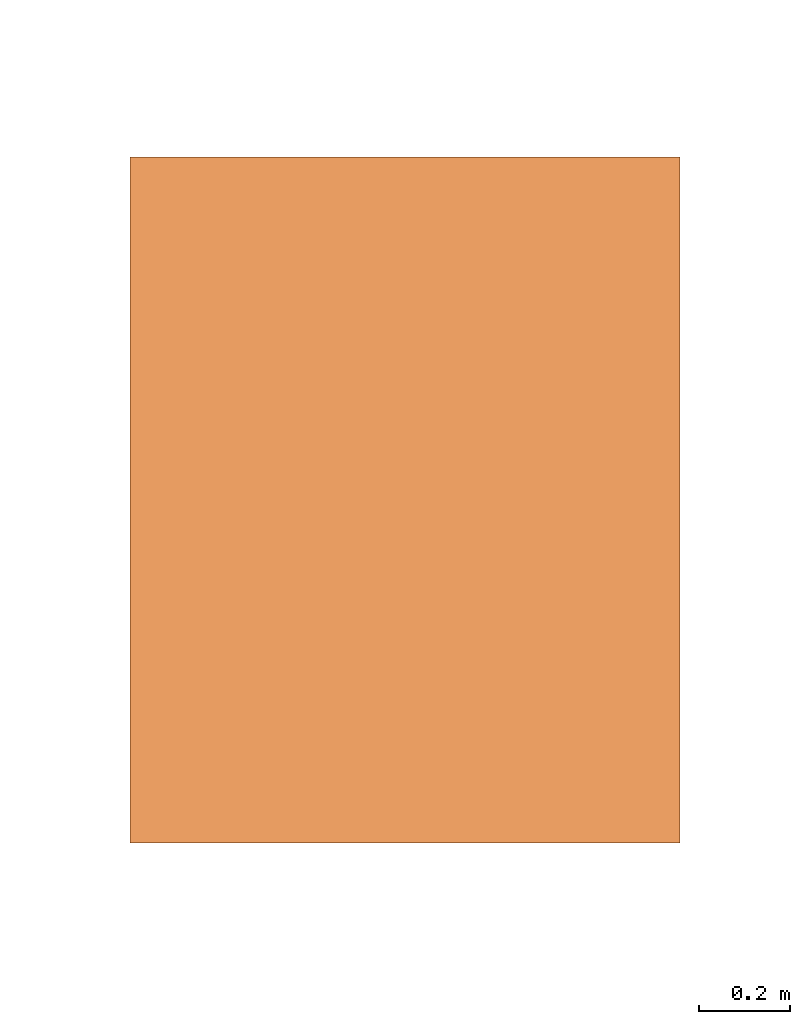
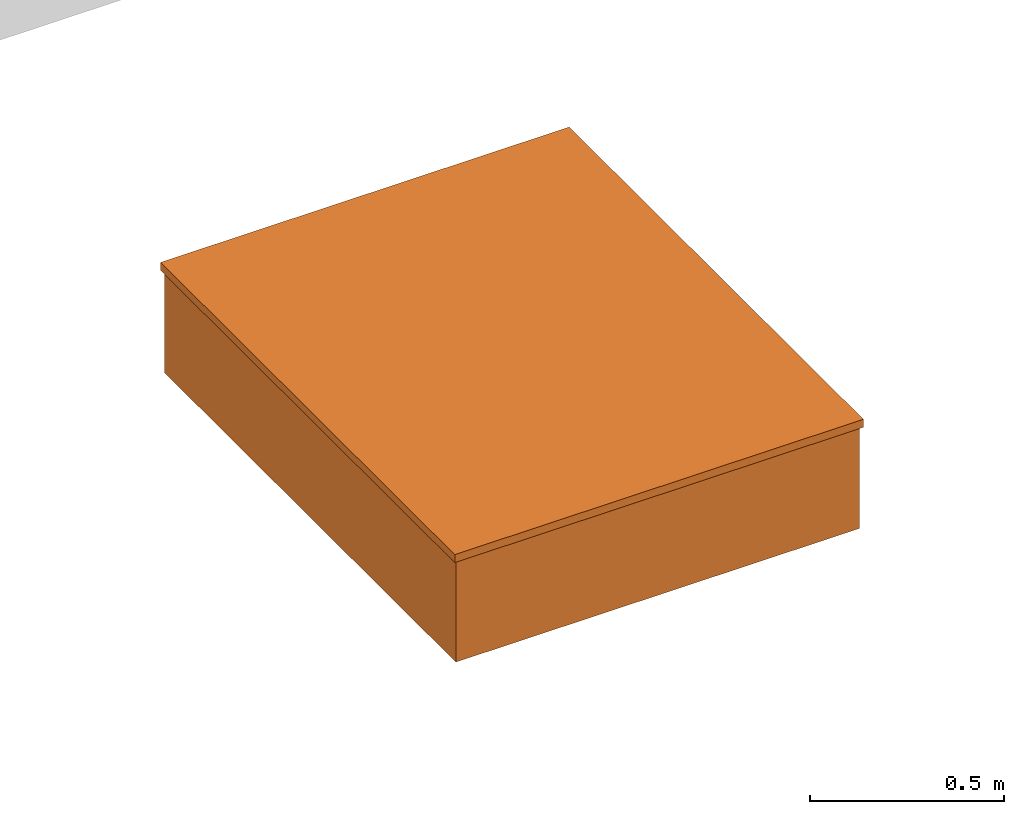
# One storey, part 1 of 2: 1 proxy.
"""IFC2X3 building model written with IfcOpenShell, lengths in metres."""

from ifc_helpers import new_model, entity, si_unit, converted_unit, derived_unit, direction, frame, origin, place, context, subcontext, project, spatial, faceted_brep, source, transform, mapped, material, material_list, type_object, type_shapes, element, save


model = new_model("IFC2X3")

# Units and contexts
model_context = context("Model", 3, precision=1e-05, world=origin(), true_north=direction((6.12303176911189e-17, 1.0)))
body_context = subcontext(model_context, "Body", "Model", "MODEL_VIEW")
ifc_project = project(units=[si_unit("LENGTHUNIT", "METRE"), si_unit("AREAUNIT", "SQUARE_METRE"), si_unit("VOLUMEUNIT", "CUBIC_METRE"), converted_unit("PLANEANGLEUNIT", "DEGREE", entity("IfcRatioMeasure", 0.0174532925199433), si_unit("PLANEANGLEUNIT", "RADIAN"), dimensions=[0, 0, 0, 0, 0, 0, 0]), si_unit("MASSUNIT", "GRAM", prefix="KILO"), derived_unit("MASSDENSITYUNIT", [(si_unit("MASSUNIT", "GRAM", prefix="KILO"), 1), (si_unit("LENGTHUNIT", "METRE"), -3)]), derived_unit("MOMENTOFINERTIAUNIT", [(si_unit("LENGTHUNIT", "METRE"), 4)]), si_unit("TIMEUNIT", "SECOND"), si_unit("FREQUENCYUNIT", "HERTZ"), si_unit("THERMODYNAMICTEMPERATUREUNIT", "DEGREE_CELSIUS"), derived_unit("THERMALTRANSMITTANCEUNIT", [(si_unit("MASSUNIT", "GRAM", prefix="KILO"), 1), (si_unit("THERMODYNAMICTEMPERATUREUNIT", "KELVIN"), -1), (si_unit("TIMEUNIT", "SECOND"), -3)]), derived_unit("VOLUMETRICFLOWRATEUNIT", [(si_unit("LENGTHUNIT", "METRE"), 3), (si_unit("TIMEUNIT", "SECOND"), -1)]), si_unit("ELECTRICCURRENTUNIT", "AMPERE"), si_unit("ELECTRICVOLTAGEUNIT", "VOLT"), si_unit("POWERUNIT", "WATT"), si_unit("FORCEUNIT", "NEWTON", prefix="KILO"), si_unit("ILLUMINANCEUNIT", "LUX"), si_unit("LUMINOUSFLUXUNIT", "LUMEN"), si_unit("LUMINOUSINTENSITYUNIT", "CANDELA"), derived_unit("USERDEFINED", [(si_unit("MASSUNIT", "GRAM", prefix="KILO"), -1), (si_unit("LENGTHUNIT", "METRE"), -2), (si_unit("TIMEUNIT", "SECOND"), 3), (si_unit("LUMINOUSFLUXUNIT", "LUMEN"), 1)]), derived_unit("LINEARVELOCITYUNIT", [(si_unit("LENGTHUNIT", "METRE"), 1), (si_unit("TIMEUNIT", "SECOND"), -1)]), si_unit("PRESSUREUNIT", "PASCAL"), derived_unit("USERDEFINED", [(si_unit("LENGTHUNIT", "METRE"), -2), (si_unit("MASSUNIT", "GRAM", prefix="KILO"), 1), (si_unit("TIMEUNIT", "SECOND"), -2)]), derived_unit("LINEARFORCEUNIT", [(si_unit("MASSUNIT", "GRAM", prefix="KILO"), 1), (si_unit("LENGTHUNIT", "METRE"), 1), (si_unit("TIMEUNIT", "SECOND"), -2), (si_unit("LENGTHUNIT", "METRE"), -1)]), derived_unit("PLANARFORCEUNIT", [(si_unit("MASSUNIT", "GRAM", prefix="KILO"), 1), (si_unit("LENGTHUNIT", "METRE"), 1), (si_unit("TIMEUNIT", "SECOND"), -2), (si_unit("LENGTHUNIT", "METRE"), -2)])], contexts=[model_context])

# Site, building, storey
site_placement = place(None, origin())
site = spatial("IfcSite", under=ifc_project, at=site_placement, Name="Default", CompositionType="ELEMENT")
building_placement = place(site_placement, origin())
building = spatial("IfcBuilding", under=site, at=building_placement, CompositionType="ELEMENT")
storey_placement = place(building_placement, frame((0.0, 0.0, 3.22980827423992)))
storey = spatial("IfcBuildingStorey", under=building, at=storey_placement, Name="Niveau 1 - 03", CompositionType="ELEMENT", Elevation=3.22980827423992)

# Proxy
ifc_material_1 = material(Name="Verre")
ifc_material_2 = material(Name="Métal - Aluminium")
ifc_material_list_1 = material_list([ifc_material_1, ifc_material_2])
ifc_material_list_2 = material_list([ifc_material_2, ifc_material_1])
building_element_proxy_type = type_object("IfcBuildingElementProxyType", Name="Famille 0:Famille 140x110", PredefinedType="NOTDEFINED", material=ifc_material_list_2)
shared_shape = source(origin(), body_context, "Body", "Brep", [
    faceted_brep([(0.724999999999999, -0.575000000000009, 0.175991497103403), (-0.725000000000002, -0.575000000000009, 0.175991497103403), (-0.725000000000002, 0.574999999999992, 0.175991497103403), (0.724999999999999, 0.574999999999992, 0.175991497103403), (0.724999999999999, -0.575000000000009, 0.195154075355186), (0.724999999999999, 0.574999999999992, 0.195154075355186), (-0.725000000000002, 0.574999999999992, 0.195154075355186), (-0.725000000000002, -0.575000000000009, 0.195154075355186)], [[[0, 1, 2, 3]], [[4, 5, 6, 7]], [[5, 4, 0, 3]], [[6, 5, 3, 2]], [[7, 6, 2, 1]], [[4, 7, 1, 0]]]),
    faceted_brep([(-0.7575, -0.607500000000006, 0.169999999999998), (-0.75, -0.600000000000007, 0.169999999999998), (0.749999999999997, -0.600000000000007, 0.169999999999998), (0.757499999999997, -0.607500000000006, 0.169999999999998), (-0.725000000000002, -0.575000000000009, 0.195154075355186), (-0.7575, -0.607500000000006, 0.195154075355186), (0.757499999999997, -0.607500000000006, 0.195154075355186), (0.724999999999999, -0.575000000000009, 0.195154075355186), (-0.725000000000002, -0.575000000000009, 0.175991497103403), (0.724999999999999, -0.575000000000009, 0.175991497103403), (-0.700000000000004, -0.550000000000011, 0.175991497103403), (0.700000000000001, -0.550000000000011, 0.175991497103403), (-0.700000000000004, -0.550000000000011, -0.150000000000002), (0.700000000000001, -0.550000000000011, -0.150000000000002), (-0.75, -0.600000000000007, -0.150000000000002), (0.749999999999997, -0.600000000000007, -0.150000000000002), (0.749999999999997, 0.59999999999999, 0.169999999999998), (0.757499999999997, 0.607499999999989, 0.169999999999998), (0.757499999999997, 0.60749999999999, 0.195154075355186), (0.724999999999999, 0.574999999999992, 0.195154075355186), (0.724999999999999, 0.574999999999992, 0.175991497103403), (0.700000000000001, 0.549999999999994, 0.175991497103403), (0.700000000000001, 0.549999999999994, -0.150000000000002), (0.749999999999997, 0.59999999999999, -0.150000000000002), (-0.75, 0.59999999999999, 0.169999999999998), (-0.7575, 0.60749999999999, 0.169999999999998), (-0.7575, 0.60749999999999, 0.195154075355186), (-0.725000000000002, 0.574999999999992, 0.195154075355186), (-0.725000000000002, 0.574999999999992, 0.175991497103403), (-0.700000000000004, 0.549999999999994, 0.175991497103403), (-0.700000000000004, 0.549999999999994, -0.150000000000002), (-0.75, 0.59999999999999, -0.150000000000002)], [[[0, 1, 2, 3]], [[4, 5, 6, 7]], [[8, 4, 7, 9]], [[10, 8, 9, 11]], [[12, 10, 11, 13]], [[14, 12, 13, 15]], [[3, 2, 16, 17]], [[7, 6, 18, 19]], [[9, 7, 19, 20]], [[11, 9, 20, 21]], [[13, 11, 21, 22]], [[15, 13, 22, 23]], [[17, 16, 24, 25]], [[19, 18, 26, 27]], [[20, 19, 27, 28]], [[21, 20, 28, 29]], [[22, 21, 29, 30]], [[23, 22, 30, 31]], [[25, 24, 1, 0]], [[27, 26, 5, 4]], [[28, 27, 4, 8]], [[29, 28, 8, 10]], [[30, 29, 10, 12]], [[31, 30, 12, 14]], [[1, 14, 15, 2]], [[5, 0, 3, 6]], [[2, 15, 23, 16]], [[6, 3, 17, 18]], [[16, 23, 31, 24]], [[18, 17, 25, 26]], [[24, 31, 14, 1]], [[26, 25, 0, 5]]]),
])
type_shapes(building_element_proxy_type, [shared_shape])
proxy_placement = place(storey_placement, frame((-28.4909246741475, -9.60782297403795, 0.773499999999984), z_axis=(0.0, 0.0, 1.0), x_axis=(0.0, 1.0, 0.0)))
element("IfcBuildingElementProxy", 1, at=proxy_placement, inside=storey, type_object=building_element_proxy_type, material=ifc_material_list_1, Name="Famille 0:Famille 140x110", ObjectType="Famille 0:Famille 140x110", context=body_context, shape_type="MappedRepresentation", body=[
    mapped(shared_shape, transform((0.0, 0.0, 0.0), scale=1.0)),
])

save(model, "model.ifc")
